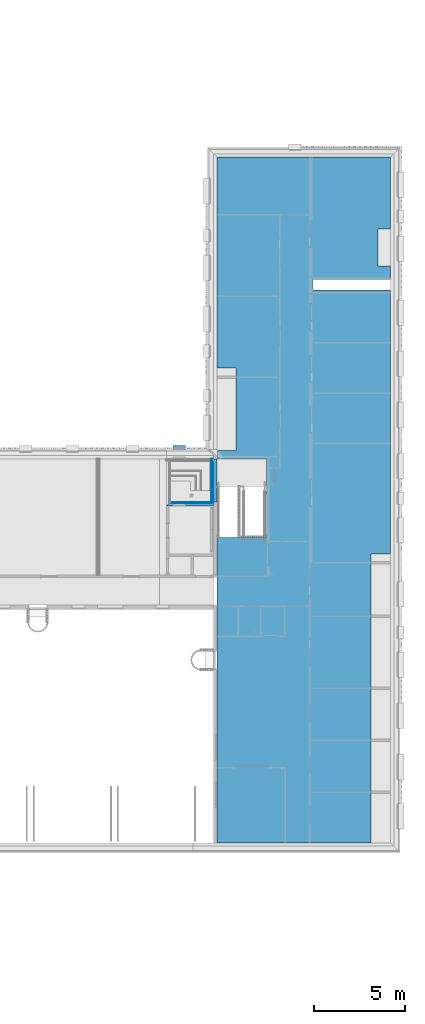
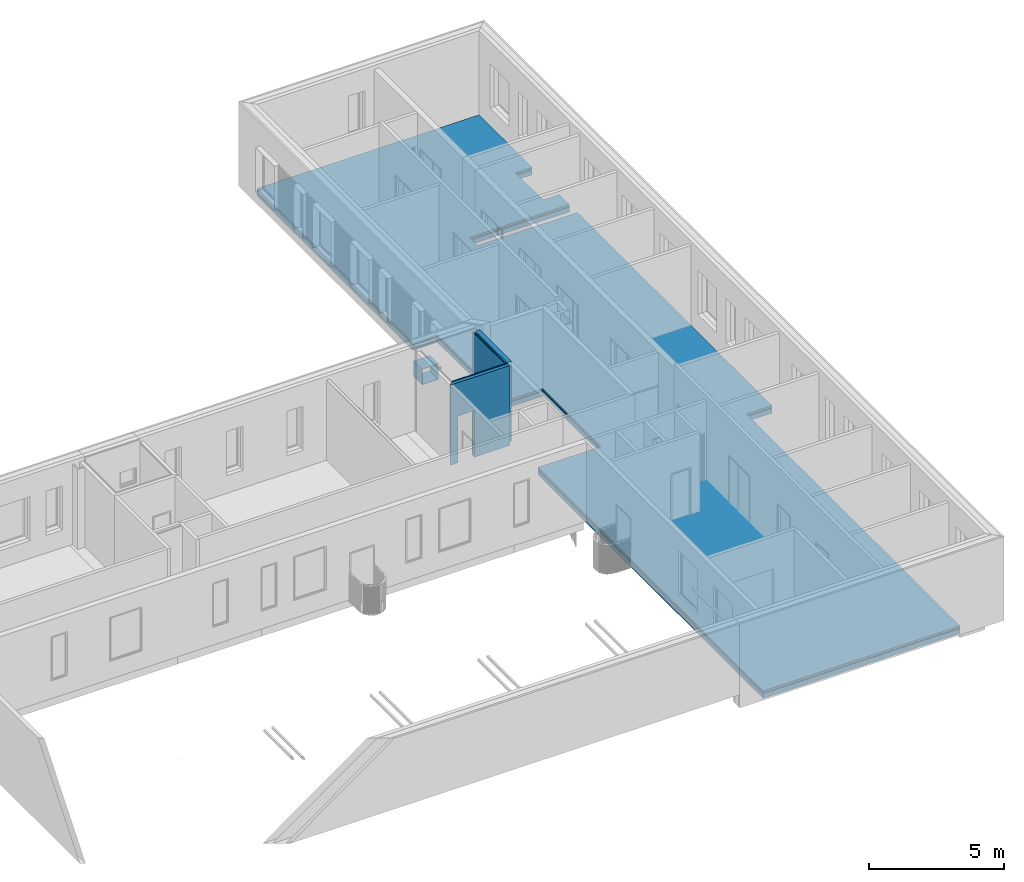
# One storey, part 35 of 100: 12 building element parts, 1 discrete accessory, 1 opening, 3 elements without a shape of their own.
"""IFC2X3 building model written with IfcOpenShell, lengths in millimetres."""

from ifc_helpers import new_model, entity, si_unit, converted_unit, derived_unit, money_unit, direction, frame, origin_with_axes, origin_2d_with_axis, place, context, subcontext, project, spatial, polyline, rectangle, outline, extrude, faceted_brep, source, transform, mapped, material, type_object, element, aggregate, save


model = new_model("IFC2X3")

# Units and contexts
model_context = context("Model", 3, precision=0.01, world=origin_with_axes(), true_north=direction((0.0, 1.0)))
body_context = subcontext(model_context, "Body", "Model", "MODEL_VIEW")
ifc_project = project(units=[si_unit("LENGTHUNIT", "METRE", prefix="MILLI"), si_unit("AREAUNIT", "SQUARE_METRE"), si_unit("VOLUMEUNIT", "CUBIC_METRE"), converted_unit("PLANEANGLEUNIT", "DEGREE", entity("IfcPlaneAngleMeasure", 0.0174532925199), si_unit("PLANEANGLEUNIT", "RADIAN"), dimensions=[0, 0, 0, 0, 0, 0, 0]), si_unit("SOLIDANGLEUNIT", "STERADIAN"), money_unit("EUR"), converted_unit("TIMEUNIT", "Year", entity("IfcTimeMeasure", 31556926.0), si_unit("TIMEUNIT", "SECOND"), dimensions=[0, 0, 1, 0, 0, 0, 0]), si_unit("MASSUNIT", "GRAM", prefix="KILO"), si_unit("THERMODYNAMICTEMPERATUREUNIT", "DEGREE_CELSIUS"), si_unit("LUMINOUSINTENSITYUNIT", "LUMEN"), si_unit("ENERGYUNIT", "JOULE", prefix="MEGA"), derived_unit("THERMALCONDUCTANCEUNIT", [(si_unit("POWERUNIT", "WATT"), 1), (si_unit("LENGTHUNIT", "METRE"), -1), (si_unit("THERMODYNAMICTEMPERATUREUNIT", "KELVIN"), -1)]), derived_unit("SPECIFICHEATCAPACITYUNIT", [(si_unit("ENERGYUNIT", "JOULE"), 1), (si_unit("MASSUNIT", "GRAM", prefix="KILO"), -1), (si_unit("THERMODYNAMICTEMPERATUREUNIT", "KELVIN"), -1)]), derived_unit("MASSDENSITYUNIT", [(si_unit("MASSUNIT", "GRAM", prefix="KILO"), 1), (si_unit("VOLUMEUNIT", "CUBIC_METRE"), -1)])], contexts=[model_context])

# Site, building, storey
site_placement = place(None, origin_with_axes())
site = spatial("IfcSite", under=ifc_project, at=site_placement, Name="Politse- ja Piirivalveameti ning Päästeameti ühishoone", CompositionType="ELEMENT")
building_placement = place(site_placement, origin_with_axes())
building = spatial("IfcBuilding", under=site, at=building_placement, Name="Politse- ja Piirivalveameti ning Päästeameti ühishoone", CompositionType="ELEMENT")
storey_placement = place(building_placement, frame((0.0, 0.0, 3800.0), z_axis=(0.0, 0.0, 1.0), x_axis=(1.0, 0.0, 0.0)))
storey = spatial("IfcBuildingStorey", under=building, at=storey_placement, Name="Teine korrus", CompositionType="ELEMENT", Elevation=3800.0)

# Discrete accessory
ifc_material_1 = material(Name="SV-01_Krohv - Kips")
discrete_accessory_type = type_object("IfcDiscreteAccessoryType", Name="Architrave 01 23")
shared_shape = source(origin_with_axes(), body_context, "Body", "Brep", [
    faceted_brep([(350.0, 0.0, -10.0), (350.0, -630.0, -10.0), (-350.0, -630.0, -10.0), (-350.0, 0.0, -10.0), (340.0, 0.0, 0.0), (340.0, -630.0, 0.0), (-340.0, -630.0, 0.0), (-340.0, 0.0, 0.0)], [[[0, 1, 2, 3]], [[4, 5, 1, 0]], [[1, 5, 6, 2]], [[3, 2, 6, 7]], [[0, 3, 7, 4]], [[7, 6, 5, 4]]]),
    faceted_brep([(-350.0, 0.0, -10.0), (-350.0, -630.0, -10.0), (-350.0, -630.0, 690.0), (-350.0, 0.0, 690.0), (-340.0, 0.0, 0.0), (-340.0, -630.0, 0.0), (-340.0, -630.0, 680.0), (-340.0, 0.0, 680.0)], [[[0, 1, 2, 3]], [[4, 5, 1, 0]], [[1, 5, 6, 2]], [[3, 2, 6, 7]], [[0, 3, 7, 4]], [[7, 6, 5, 4]]]),
    faceted_brep([(-350.0, 0.0, 690.0), (-350.0, -630.0, 690.0), (350.0, -630.0, 690.0), (350.0, 0.0, 690.0), (-340.0, 0.0, 680.0), (-340.0, -630.0, 680.0), (340.0, -630.0, 680.0), (340.0, 0.0, 680.0)], [[[0, 1, 2, 3]], [[4, 5, 1, 0]], [[1, 5, 6, 2]], [[3, 2, 6, 7]], [[0, 3, 7, 4]], [[7, 6, 5, 4]]]),
    faceted_brep([(350.0, 0.0, 690.0), (350.0, -630.0, 690.0), (350.0, -630.0, -10.0), (350.0, 0.0, -10.0), (340.0, 0.0, 680.0), (340.0, -630.0, 680.0), (340.0, -630.0, 0.0), (340.0, 0.0, 0.0)], [[[0, 1, 2, 3]], [[4, 5, 1, 0]], [[1, 5, 6, 2]], [[3, 2, 6, 7]], [[0, 3, 7, 4]], [[7, 6, 5, 4]]]),
])
discrete_accessory_placement = place(storey_placement, frame((58102.5879797, 21099.9535387, 1910.0), z_axis=(0.0, 0.0, 1.0), x_axis=(-1.0, 0.0, 0.0)))
element("IfcDiscreteAccessory", 1, at=discrete_accessory_placement, inside=storey, type_object=discrete_accessory_type, material=ifc_material_1, Name="AKNARAAM 01", context=body_context, shape_type="MappedRepresentation", body=[
    mapped(shared_shape, transform((0.0, 0.0, 0.0))),
])

# Wall, building element parts
wall_type_1 = type_object("IfcWallType", Name="SS-08_Sisesein - leiliruum trepi kõrval 302", PredefinedType="NOTDEFINED")
wall_1_placement = place(storey_placement, frame((60160.5519118, 20999.9520832, 0.0), z_axis=(0.0, 0.0, 1.0), x_axis=(0.0, -1.0, 0.0)))
wall_1 = element("IfcWall", 2, at=wall_1_placement, inside=storey, type_object=wall_type_1, Name="SS-08")
ifc_material_2 = material(Name="ET-01_Puit - Konstruktsioon")
building_element_part_1_placement = place(wall_1_placement, origin_with_axes())
building_element_part_1 = element("IfcBuildingElementPart", 3, at=building_element_part_1_placement, material=ifc_material_2, Name="ET-01_Puit - Konstruktsioon", context=body_context, shape_type="SweptSolid", body=[
    extrude(outline(polyline([(-0.00154377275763, -302.0), (2364.9099304, -302.0), (2364.9099304, -287.0), (-0.00154431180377, -287.0), (-0.00154377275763, -302.0)])), origin_with_axes(), (0.0, 0.0, 1.0), 3620.0),
])
ifc_material_3 = material(Name="Õhkvahe - Raam")
building_element_part_2_placement = place(wall_1_placement, origin_with_axes())
building_element_part_2 = element("IfcBuildingElementPart", 4, at=building_element_part_2_placement, material=ifc_material_3, Name="Õhkvahe - Raam", context=body_context, shape_type="SweptSolid", body=[
    extrude(outline(polyline([(-0.00154431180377, -287.0), (2364.9099304, -287.0), (2364.9099304, -265.0), (-0.00154510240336, -265.0), (-0.00154431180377, -287.0)])), origin_with_axes(), (0.0, 0.0, 1.0), 3620.0),
])
ifc_material_4 = material(Name="SOJ-04_Soojustus - Mineraal Kõva")
building_element_part_3_placement = place(wall_1_placement, origin_with_axes())
building_element_part_3 = element("IfcBuildingElementPart", 5, at=building_element_part_3_placement, material=ifc_material_4, Name="SOJ-04_Soojustus - Mineraal Kõva", context=body_context, shape_type="SweptSolid", body=[
    extrude(outline(polyline([(-0.00154510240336, -265.0), (2364.9099304, -265.0), (2364.9099304, -240.0), (-0.00154600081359, -240.0), (-0.00154510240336, -265.0)])), origin_with_axes(), (0.0, 0.0, 1.0), 3620.0),
])
ifc_material_5 = material(Name="Insulation - Mineral Soft+tala 50x150mm")
building_element_part_4_placement = place(wall_1_placement, origin_with_axes())
building_element_part_4 = element("IfcBuildingElementPart", 6, at=building_element_part_4_placement, material=ifc_material_5, Name="Insulation - Mineral Soft+tala 50x150mm", context=body_context, shape_type="SweptSolid", body=[
    extrude(outline(polyline([(-0.00154600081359, -240.0), (2364.9099304, -240.0), (2364.9099304, -190.0), (-0.00154779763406, -190.0), (-0.00154600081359, -240.0)])), origin_with_axes(), (0.0, 0.0, 1.0), 3620.0),
])
ifc_material_6 = material(Name="KON-05_Betoon Plokk - Konstuktsioon")
building_element_part_5_placement = place(wall_1_placement, origin_with_axes())
building_element_part_5 = element("IfcBuildingElementPart", 7, at=building_element_part_5_placement, material=ifc_material_6, Name="KON-05_Betoon Plokk - Konstuktsioon", context=body_context, shape_type="SweptSolid", body=[
    extrude(outline(polyline([(-0.00154779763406, -190.0), (2364.9099304, -190.0), (2364.9099304, 0.0), (-0.00155462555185, 0.0), (-0.00154779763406, -190.0)])), origin_with_axes(), (0.0, 0.0, 1.0), 3620.0),
])
aggregate(wall_1, [building_element_part_1, building_element_part_2, building_element_part_3, building_element_part_4, building_element_part_5])

# Slab, building element parts
slab_type = type_object("IfcSlabType", Name="VL-01_Vahelagi 340", PredefinedType="NOTDEFINED")
slab_placement = place(storey_placement, frame((60160.5519118, 16691.8376478, 0.0), z_axis=(0.0, 0.0, 1.0), x_axis=(1.0, 0.0, 0.0)))
slab = element("IfcSlab", 8, at=slab_placement, inside=storey, type_object=slab_type, Name="VL-01", PredefinedType="NOTDEFINED")
ifc_material_7 = material(Name="KON-06_Raudbetoon - Konstruktsioon")
building_element_part_6_placement = place(slab_placement, origin_with_axes())
building_element_part_6 = element("IfcBuildingElementPart", 9, at=building_element_part_6_placement, material=ifc_material_7, Name="KON-06_Raudbetoon - Konstruktsioon", context=body_context, shape_type="SweptSolid", body=[
    extrude(outline(polyline([(0.0, 0.0), (0.0, -16691.8376478), (8420.01191667, -16691.8376478), (8420.01191667, -889.028508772), (9500.01451389, -889.028508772), (9500.01451389, 13534.0491432), (5240.00763889, 13534.0491432), (5240.00763889, 14120.9714912), (9500.01451389, 14120.9714912), (9500.01451389, 14868.3609609), (8799.87128067, 14868.3609609), (8799.87128067, 16888.2325963), (9500.01451389, 16888.2325963), (9500.01451389, 20808.114484), (0.0, 20808.114484), (0.0, 9278.11443541), (1050.0, 9278.11443541), (1050.0, 4758.11443541), (0.0, 4758.11443541), (0.0, 4308.11443541), (2700.00534722, 4308.11443541), (2697.32142857, 0.0), (0.0, 0.0)])), frame((0.0, 0.0, -340.0), z_axis=(0.0, 0.0, 1.0), x_axis=(1.0, 0.0, 0.0)), (0.0, 0.0, 1.0), 220.0),
])
building_element_part_7_placement = place(slab_placement, origin_with_axes())
building_element_part_7 = element("IfcBuildingElementPart", 10, at=building_element_part_7_placement, material=ifc_material_4, Name="SOJ-04_Soojustus - Mineraal Kõva", context=body_context, shape_type="SweptSolid", body=[
    extrude(outline(polyline([(0.0, 0.0), (0.0, -16691.8376478), (8420.01191667, -16691.8376478), (8420.01191667, -889.028508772), (9500.01451389, -889.028508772), (9500.01451389, 13534.0491432), (5240.00763889, 13534.0491432), (5240.00763889, 14120.9714912), (9500.01451389, 14120.9714912), (9500.01451389, 14868.3609609), (8799.87128067, 14868.3609609), (8799.87128067, 16888.2325963), (9500.01451389, 16888.2325963), (9500.01451389, 20808.114484), (0.0, 20808.114484), (0.0, 9278.11443541), (1050.0, 9278.11443541), (1050.0, 4758.11443541), (0.0, 4758.11443541), (0.0, 4308.11443541), (2700.00534722, 4308.11443541), (2697.32142857, 0.0), (0.0, 0.0)])), frame((0.0, 0.0, -120.0), z_axis=(0.0, 0.0, 1.0), x_axis=(1.0, 0.0, 0.0)), (0.0, 0.0, 1.0), 30.0),
])
ifc_material_8 = material(Name="VKR-01_Betoon")
building_element_part_8_placement = place(slab_placement, origin_with_axes())
building_element_part_8 = element("IfcBuildingElementPart", 11, at=building_element_part_8_placement, material=ifc_material_8, Name="VKR-01_Betoon", context=body_context, shape_type="SweptSolid", body=[
    extrude(outline(polyline([(0.0, 0.0), (0.0, -16691.8376478), (8420.01191667, -16691.8376478), (8420.01191667, -889.028508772), (9500.01451389, -889.028508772), (9500.01451389, 13534.0491432), (5240.00763889, 13534.0491432), (5240.00763889, 14120.9714912), (9500.01451389, 14120.9714912), (9500.01451389, 14868.3609609), (8799.87128067, 14868.3609609), (8799.87128067, 16888.2325963), (9500.01451389, 16888.2325963), (9500.01451389, 20808.114484), (0.0, 20808.114484), (0.0, 9278.11443541), (1050.0, 9278.11443541), (1050.0, 4758.11443541), (0.0, 4758.11443541), (0.0, 4308.11443541), (2700.00534722, 4308.11443541), (2697.32142857, 0.0), (0.0, 0.0)])), frame((0.0, 0.0, -90.0), z_axis=(0.0, 0.0, 1.0), x_axis=(1.0, 0.0, 0.0)), (0.0, 0.0, 1.0), 90.0),
])
aggregate(slab, [building_element_part_6, building_element_part_7, building_element_part_8])

# Wall, opening, building element parts
wall_type_2 = type_object("IfcWallType", Name="SS-07_Sisesein - leiliruum 205", PredefinedType="NOTDEFINED")
wall_2_placement = place(storey_placement, frame((59970.5519118, 18430.0421528, 0.0), z_axis=(0.0, 0.0, 1.0), x_axis=(-1.0, 0.0, 0.0)))
wall_2 = element("IfcWall", 12, at=wall_2_placement, inside=storey, type_object=wall_type_2, Name="SS-07")
opening_placement = place(wall_2_placement, frame((1867.96393549, 0.0, 0.0), z_axis=(0.0, 0.0, 1.0), x_axis=(1.0, 0.0, 0.0)))
element("IfcOpeningElement", 13, at=opening_placement, cuts=wall_2, Name="SU-03-1", context=body_context, shape_type="SweptSolid", body=[
    extrude(rectangle(XDim=700.0, YDim=2100.0, at=origin_2d_with_axis()), frame((0.0, -205.0, 1050.0), z_axis=(0.0, 1.0, 0.0), x_axis=(1.0, 0.0, 0.0)), (0.0, 0.0, 1.0), 615.0),
    extrude(rectangle(XDim=774.0, YDim=2137.0, at=origin_2d_with_axis()), frame((0.0, -205.0, 1068.5), z_axis=(0.0, 1.0, 0.0), x_axis=(1.0, 0.0, 0.0)), (0.0, 0.0, -1.0), 205.0),
    extrude(rectangle(XDim=774.0, YDim=2137.0, at=origin_2d_with_axis()), frame((0.0, 0.0, 1068.5), z_axis=(0.0, -1.0, 0.0), x_axis=(1.0, 0.0, 0.0)), (0.0, 0.0, -1.0), 205.0),
])
building_element_part_9_placement = place(wall_2_placement, origin_with_axes())
building_element_part_9 = element("IfcBuildingElementPart", 14, at=building_element_part_9_placement, material=ifc_material_2, Name="ET-01_Puit - Konstruktsioon", context=body_context, shape_type="SweptSolid", body=[
    extrude(outline(polyline([(0.0, -205.0), (2364.96215791, -205.0), (2379.9615906, -190.0), (0.658536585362, -190.0), (0.0, -205.0)])), origin_with_axes(), (0.0, 0.0, 1.0), 3620.0),
])
building_element_part_10_placement = place(wall_2_placement, origin_with_axes())
building_element_part_10 = element("IfcBuildingElementPart", 15, at=building_element_part_10_placement, material=ifc_material_3, Name="Õhkvahe - Raam", context=body_context, shape_type="SweptSolid", body=[
    extrude(outline(polyline([(0.658536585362, -190.0), (2379.9615906, -190.0), (2399.96083418, -170.0), (1.53658536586, -170.0), (0.658536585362, -190.0)])), origin_with_axes(), (0.0, 0.0, 1.0), 3620.0),
])
ifc_material_9 = material(Name="SOJ-02_Soojustus - Fiiber Kõva")
building_element_part_11_placement = place(wall_2_placement, origin_with_axes())
building_element_part_11 = element("IfcBuildingElementPart", 16, at=building_element_part_11_placement, material=ifc_material_9, Name="SOJ-02_Soojustus - Fiiber Kõva", context=body_context, shape_type="SweptSolid", body=[
    extrude(outline(polyline([(1.53658536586, -170.0), (2399.96083418, -170.0), (2429.95969956, -140.0), (2.85365853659, -140.0), (1.53658536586, -170.0)])), origin_with_axes(), (0.0, 0.0, 1.0), 3620.0),
])
building_element_part_12_placement = place(wall_2_placement, origin_with_axes())
building_element_part_12 = element("IfcBuildingElementPart", 17, at=building_element_part_12_placement, material=ifc_material_6, Name="KON-05_Betoon Plokk - Konstuktsioon", context=body_context, shape_type="SweptSolid", body=[
    extrude(outline(polyline([(2.85365853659, -140.0), (2429.95969956, -140.0), (2569.95440464, 0.0), (9.0, 0.0), (2.85365853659, -140.0)])), origin_with_axes(), (0.0, 0.0, 1.0), 3620.0),
])
aggregate(wall_2, [building_element_part_9, building_element_part_10, building_element_part_11, building_element_part_12])

save(model, "model.ifc")
